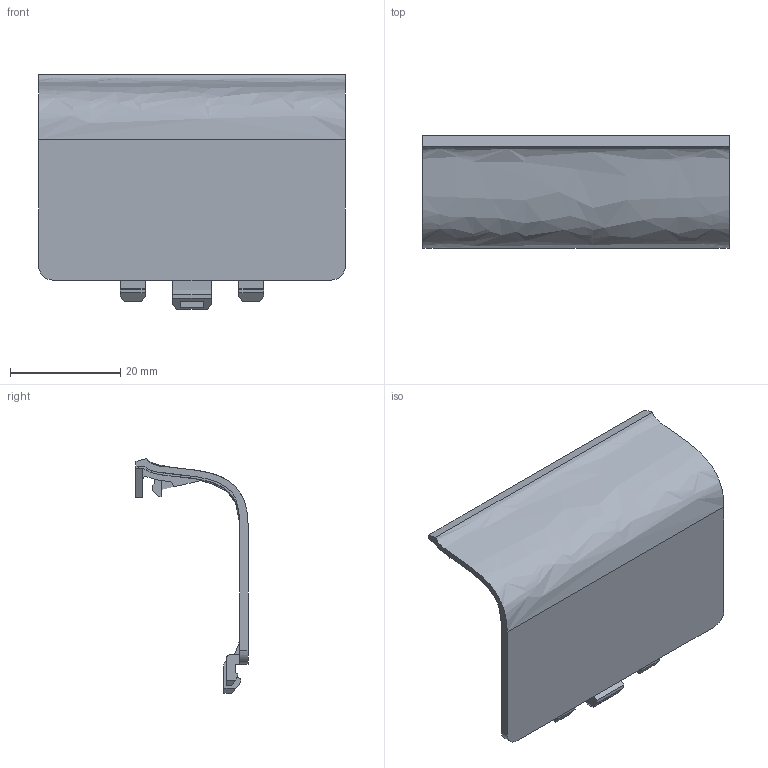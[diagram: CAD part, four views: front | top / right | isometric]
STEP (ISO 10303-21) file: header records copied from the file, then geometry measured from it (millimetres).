
FILE_DESCRIPTION( ( '' ), ' ' );
FILE_NAME( '/vol/tmp/translate-4661008019398899888/5e17935660c0bb157a8b7834.step', '2020-01-09T20:55:50', ( '' ), ( '' ), ' ', ' ', ' ' );
FILE_SCHEMA( ( 'AUTOMOTIVE_DESIGN { 1 0 10303 214 1 1 1 1 }' ) );
Length unit declared in the file: metre
Products named in the file (1): Battery Cover
Bounding box: 55.58 x 20.32 x 42.6 mm (x, y, z)
Volume: 4598.7 mm3; surface area: 6540.7 mm2
Topology: 1 solids, 1 shells, 117 faces, 338 edges, 224 vertices
Faces by surface type: plane 100, cylinder 11, extrusion 5, offset 1
Entity records: 5145 total; most frequent: CARTESIAN_POINT 1154, ORIENTED_EDGE 676, DIRECTION 558, EDGE_CURVE 338, VECTOR 290, LINE 284, VERTEX_POINT 224, AXIS2_PLACEMENT_3D 134
